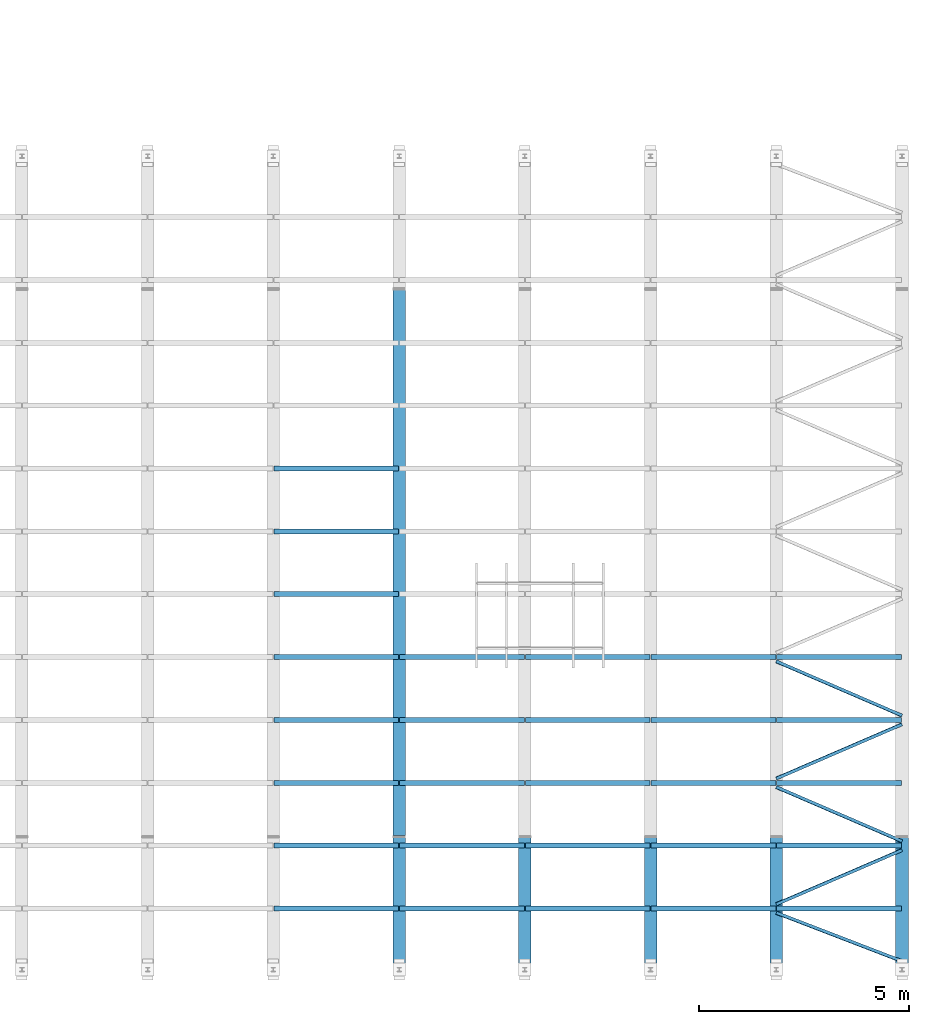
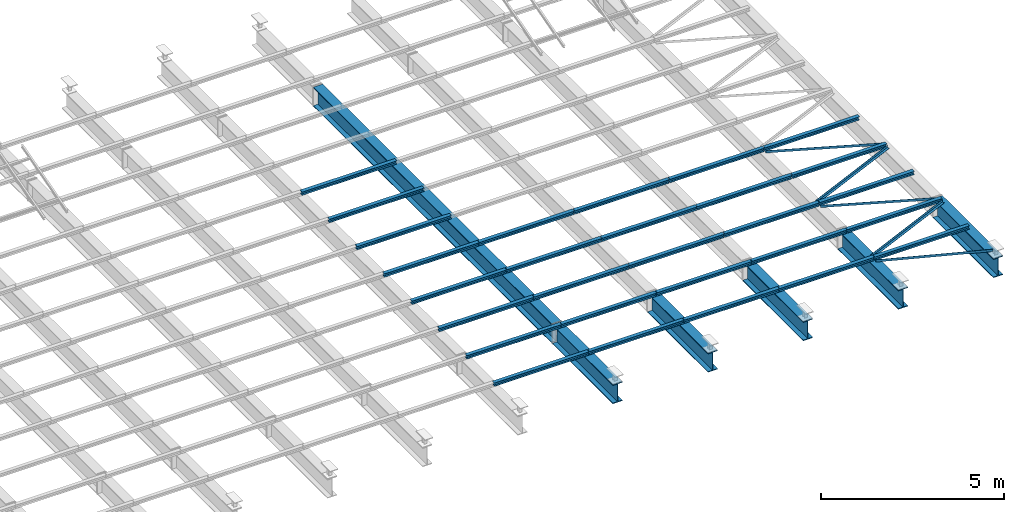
# One storey, part 68 of 139: 39 beams.
"""IFC2X3 building model written with IfcOpenShell, lengths in metres."""

from ifc_helpers import new_model, entity, si_unit, converted_unit, derived_unit, frame, origin, place, context, subcontext, project, spatial, polyline, outline, extrude, material, element, save


model = new_model("IFC2X3")

# Units and contexts
model_context = context("Model", 3, precision=1e-05, world=origin())
body_context = subcontext(model_context, "Body", "Model", "MODEL_VIEW")
ifc_project = project(units=[si_unit("LENGTHUNIT", "METRE"), si_unit("AREAUNIT", "SQUARE_METRE"), si_unit("VOLUMEUNIT", "CUBIC_METRE"), si_unit("MASSUNIT", "GRAM", prefix="KILO"), converted_unit("PLANEANGLEUNIT", "DEGREE", entity("IfcPlaneAngleMeasure", 0.0174532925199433), si_unit("PLANEANGLEUNIT", "RADIAN"), dimensions=[0, 0, 0, 0, 0, 0, 0]), derived_unit("THERMALTRANSMITTANCEUNIT", [(si_unit("POWERUNIT", "WATT"), 1), (si_unit("THERMODYNAMICTEMPERATUREUNIT", "KELVIN"), -1), (si_unit("LENGTHUNIT", "METRE"), -2)]), derived_unit("VOLUMETRICFLOWRATEUNIT", [(si_unit("LENGTHUNIT", "METRE"), 3), (converted_unit("TIMEUNIT", "hour", entity("IfcTimeMeasure", 3600.0), si_unit("TIMEUNIT", "SECOND"), dimensions=[0, 0, 1, 0, 0, 0, 0]), -1), (si_unit("LENGTHUNIT", "METRE"), -1)])], contexts=[model_context])

# Site, building, storey
site_placement = place(None, origin())
site = spatial("IfcSite", under=ifc_project, at=site_placement, Name="TWP_Speiseverteilzentrum SBW VZ II", CompositionType="ELEMENT")
building_placement = place(site_placement, origin())
building = spatial("IfcBuilding", under=site, at=building_placement, Name="Speiseverteilzentrum SBW VZ II", CompositionType="ELEMENT")
storey_placement = place(building_placement, frame((0.0, 0.0, 7.1307)))
storey = spatial("IfcBuildingStorey", under=building, at=storey_placement, Name="Wartung_FFB", CompositionType="ELEMENT", Elevation=7.1307)

# Beams
ifc_material_1 = material(Name="S235")
beam_1_placement = place(storey_placement, frame((109.050000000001, 26.9020742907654, -0.51), z_axis=(0.0, 0.0, 1.0), x_axis=(-1.0, 0.0, 0.0)))
element("IfcBeam", 1, at=beam_1_placement, inside=storey, material=ifc_material_1, Name="Stahlträger", context=body_context, shape_type="SweptSolid", body=[
    extrude(outline(polyline([(-0.15, 0.32), (-0.15, 0.294), (-0.00675000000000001, 0.294), (-0.00675000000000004, -0.294), (-0.15, -0.294), (-0.15, -0.32), (0.15, -0.32), (0.15, -0.294), (0.00674999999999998, -0.294), (0.00675000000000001, 0.294), (0.15, 0.294), (0.15, 0.32), (-0.15, 0.32)])), frame((0.0, 0.0, 0.0), z_axis=(0.0, 1.0, 0.0), x_axis=(-1.0, 0.0, 0.0)), (0.0, 0.0, 1.0), 13.014),
])
ifc_material_2 = material(Name="S235")
beam_2_placement = place(storey_placement, frame((109.050000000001, 13.8380742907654, -0.51), z_axis=(0.0, 0.0, 1.0), x_axis=(-1.0, 0.0, 0.0)))
element("IfcBeam", 2, at=beam_2_placement, inside=storey, material=ifc_material_2, Name="Stahlträger", context=body_context, shape_type="SweptSolid", body=[
    extrude(outline(polyline([(-0.15, 0.32), (-0.15, 0.294), (-0.00675000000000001, 0.294), (-0.00675000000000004, -0.294), (-0.15, -0.294), (-0.15, -0.32), (0.15, -0.32), (0.15, -0.294), (0.00674999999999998, -0.294), (0.00675000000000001, 0.294), (0.15, 0.294), (0.15, 0.32), (-0.15, 0.32)])), frame((0.0, 0.0, 0.0), z_axis=(0.0, 1.0, 0.0), x_axis=(-1.0, 0.0, 0.0)), (0.0, 0.0, 1.0), 3.29792570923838),
])
ifc_material_3 = material(Name="S235")
beam_3_placement = place(storey_placement, frame((112.050000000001, 13.8380742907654, -0.51), z_axis=(0.0, 0.0, 1.0), x_axis=(-1.0, 0.0, 0.0)))
element("IfcBeam", 3, at=beam_3_placement, inside=storey, material=ifc_material_3, Name="Stahlträger", context=body_context, shape_type="SweptSolid", body=[
    extrude(outline(polyline([(-0.15, 0.32), (-0.15, 0.294), (-0.00675000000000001, 0.294), (-0.00675000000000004, -0.294), (-0.15, -0.294), (-0.15, -0.32), (0.15, -0.32), (0.15, -0.294), (0.00674999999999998, -0.294), (0.00675000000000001, 0.294), (0.15, 0.294), (0.15, 0.32), (-0.15, 0.32)])), frame((0.0, 0.0, 0.0), z_axis=(0.0, 1.0, 0.0), x_axis=(-1.0, 0.0, 0.0)), (0.0, 0.0, 1.0), 3.29792570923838),
])
ifc_material_4 = material(Name="S235")
beam_4_placement = place(storey_placement, frame((115.050000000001, 13.8380742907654, -0.51), z_axis=(0.0, 0.0, 1.0), x_axis=(-1.0, 0.0, 0.0)))
element("IfcBeam", 4, at=beam_4_placement, inside=storey, material=ifc_material_4, Name="Stahlträger", context=body_context, shape_type="SweptSolid", body=[
    extrude(outline(polyline([(-0.15, 0.32), (-0.15, 0.294), (-0.00675000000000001, 0.294), (-0.00675000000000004, -0.294), (-0.15, -0.294), (-0.15, -0.32), (0.15, -0.32), (0.15, -0.294), (0.00674999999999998, -0.294), (0.00675000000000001, 0.294), (0.15, 0.294), (0.15, 0.32), (-0.15, 0.32)])), frame((0.0, 0.0, 0.0), z_axis=(0.0, 1.0, 0.0), x_axis=(-1.0, 0.0, 0.0)), (0.0, 0.0, 1.0), 3.29792570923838),
])
ifc_material_5 = material(Name="S235")
beam_5_placement = place(storey_placement, frame((118.050000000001, 13.8380742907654, -0.51), z_axis=(0.0, 0.0, 1.0), x_axis=(-1.0, 0.0, 0.0)))
element("IfcBeam", 5, at=beam_5_placement, inside=storey, material=ifc_material_5, Name="Stahlträger", context=body_context, shape_type="SweptSolid", body=[
    extrude(outline(polyline([(-0.15, 0.32), (-0.15, 0.294), (-0.00675000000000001, 0.294), (-0.00675000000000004, -0.294), (-0.15, -0.294), (-0.15, -0.32), (0.15, -0.32), (0.15, -0.294), (0.00674999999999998, -0.294), (0.00675000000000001, 0.294), (0.15, 0.294), (0.15, 0.32), (-0.15, 0.32)])), frame((0.0, 0.0, 0.0), z_axis=(0.0, 1.0, 0.0), x_axis=(-1.0, 0.0, 0.0)), (0.0, 0.0, 1.0), 3.29792570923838),
])
ifc_material_6 = material(Name="S235")
beam_6_placement = place(storey_placement, frame((121.050000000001, 13.8380742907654, -0.51), z_axis=(0.0, 0.0, 1.0), x_axis=(-1.0, 0.0, 0.0)))
element("IfcBeam", 6, at=beam_6_placement, inside=storey, material=ifc_material_6, Name="Stahlträger", context=body_context, shape_type="SweptSolid", body=[
    extrude(outline(polyline([(-0.15, 0.32), (-0.15, 0.294), (-0.00675000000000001, 0.294), (-0.00675000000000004, -0.294), (-0.15, -0.294), (-0.15, -0.32), (0.15, -0.32), (0.15, -0.294), (0.00674999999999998, -0.294), (0.00675000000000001, 0.294), (0.15, 0.294), (0.15, 0.32), (-0.15, 0.32)])), frame((0.0, 0.0, 0.0), z_axis=(0.0, 1.0, 0.0), x_axis=(-1.0, 0.0, 0.0)), (0.0, 0.0, 1.0), 3.29792570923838),
])
ifc_material_7 = material(Name="S235")
beam_7_placement = place(storey_placement, frame((106.060000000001, 22.6450742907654, -0.133), z_axis=(0.0, 0.0, 1.0), x_axis=(0.0, -1.0, 0.0)))
element("IfcBeam", 7, at=beam_7_placement, inside=storey, material=ifc_material_7, Name="Nebenträger", context=body_context, shape_type="SweptSolid", body=[
    extrude(outline(polyline([(-0.06, 0.0570000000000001), (-0.06, 0.0490000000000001), (-0.00249999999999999, 0.0490000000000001), (-0.0025, -0.0489999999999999), (-0.06, -0.0489999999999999), (-0.06, -0.0569999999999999), (0.06, -0.0569999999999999), (0.06, -0.0489999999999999), (0.0025, -0.0489999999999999), (0.00250000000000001, 0.0490000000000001), (0.06, 0.0490000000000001), (0.06, 0.0570000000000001), (-0.06, 0.0570000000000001)])), frame((0.0, 0.0, 0.0), z_axis=(0.0, 1.0, 0.0), x_axis=(-1.0, 0.0, 0.0)), (0.0, 0.0, 1.0), 2.98),
])
ifc_material_8 = material(Name="S235")
beam_8_placement = place(storey_placement, frame((106.060000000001, 21.1450742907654, -0.133), z_axis=(0.0, 0.0, 1.0), x_axis=(0.0, -1.0, 0.0)))
element("IfcBeam", 8, at=beam_8_placement, inside=storey, material=ifc_material_8, Name="Nebenträger", context=body_context, shape_type="SweptSolid", body=[
    extrude(outline(polyline([(-0.06, 0.0570000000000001), (-0.06, 0.0490000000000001), (-0.00249999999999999, 0.0490000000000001), (-0.0025, -0.0489999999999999), (-0.06, -0.0489999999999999), (-0.06, -0.0569999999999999), (0.06, -0.0569999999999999), (0.06, -0.0489999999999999), (0.0025, -0.0489999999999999), (0.00250000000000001, 0.0490000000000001), (0.06, 0.0490000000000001), (0.06, 0.0570000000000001), (-0.06, 0.0570000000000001)])), frame((0.0, 0.0, 0.0), z_axis=(0.0, 1.0, 0.0), x_axis=(-1.0, 0.0, 0.0)), (0.0, 0.0, 1.0), 2.98),
])
ifc_material_9 = material(Name="S235")
beam_9_placement = place(storey_placement, frame((106.060000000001, 19.6450742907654, -0.133), z_axis=(0.0, 0.0, 1.0), x_axis=(0.0, -1.0, 0.0)))
element("IfcBeam", 9, at=beam_9_placement, inside=storey, material=ifc_material_9, Name="Nebenträger", context=body_context, shape_type="SweptSolid", body=[
    extrude(outline(polyline([(-0.06, 0.0570000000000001), (-0.06, 0.0490000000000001), (-0.00249999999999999, 0.0490000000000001), (-0.0025, -0.0489999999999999), (-0.06, -0.0489999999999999), (-0.06, -0.0569999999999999), (0.06, -0.0569999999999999), (0.06, -0.0489999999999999), (0.0025, -0.0489999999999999), (0.00250000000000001, 0.0490000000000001), (0.06, 0.0490000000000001), (0.06, 0.0570000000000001), (-0.06, 0.0570000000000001)])), frame((0.0, 0.0, 0.0), z_axis=(0.0, 1.0, 0.0), x_axis=(-1.0, 0.0, 0.0)), (0.0, 0.0, 1.0), 2.98),
])
ifc_material_10 = material(Name="S235")
beam_10_placement = place(storey_placement, frame((106.060000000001, 18.1450742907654, -0.133), z_axis=(0.0, 0.0, 1.0), x_axis=(0.0, -1.0, 0.0)))
element("IfcBeam", 10, at=beam_10_placement, inside=storey, material=ifc_material_10, Name="Nebenträger", context=body_context, shape_type="SweptSolid", body=[
    extrude(outline(polyline([(-0.06, 0.0570000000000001), (-0.06, 0.0490000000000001), (-0.00249999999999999, 0.0490000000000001), (-0.0025, -0.0489999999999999), (-0.06, -0.0489999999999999), (-0.06, -0.0569999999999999), (0.06, -0.0569999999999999), (0.06, -0.0489999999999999), (0.0025, -0.0489999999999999), (0.00250000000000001, 0.0490000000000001), (0.06, 0.0490000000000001), (0.06, 0.0570000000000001), (-0.06, 0.0570000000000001)])), frame((0.0, 0.0, 0.0), z_axis=(0.0, 1.0, 0.0), x_axis=(-1.0, 0.0, 0.0)), (0.0, 0.0, 1.0), 2.98),
])
ifc_material_11 = material(Name="S235")
beam_11_placement = place(storey_placement, frame((109.060000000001, 18.1450742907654, -0.133), z_axis=(0.0, 0.0, 1.0), x_axis=(0.0, -1.0, 0.0)))
element("IfcBeam", 11, at=beam_11_placement, inside=storey, material=ifc_material_11, Name="Nebenträger", context=body_context, shape_type="SweptSolid", body=[
    extrude(outline(polyline([(-0.06, 0.0570000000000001), (-0.06, 0.0490000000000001), (-0.00249999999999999, 0.0490000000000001), (-0.0025, -0.0489999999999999), (-0.06, -0.0489999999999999), (-0.06, -0.0569999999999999), (0.06, -0.0569999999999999), (0.06, -0.0489999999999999), (0.0025, -0.0489999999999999), (0.00250000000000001, 0.0490000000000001), (0.06, 0.0490000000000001), (0.06, 0.0570000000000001), (-0.06, 0.0570000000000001)])), frame((0.0, 0.0, 0.0), z_axis=(0.0, 1.0, 0.0), x_axis=(-1.0, 0.0, 0.0)), (0.0, 0.0, 1.0), 2.98),
])
ifc_material_12 = material(Name="S235")
beam_12_placement = place(storey_placement, frame((112.060000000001, 18.1450742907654, -0.133), z_axis=(0.0, 0.0, 1.0), x_axis=(0.0, -1.0, 0.0)))
element("IfcBeam", 12, at=beam_12_placement, inside=storey, material=ifc_material_12, Name="Nebenträger", context=body_context, shape_type="SweptSolid", body=[
    extrude(outline(polyline([(-0.06, 0.0570000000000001), (-0.06, 0.0490000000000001), (-0.00249999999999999, 0.0490000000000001), (-0.0025, -0.0489999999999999), (-0.06, -0.0489999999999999), (-0.06, -0.0569999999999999), (0.06, -0.0569999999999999), (0.06, -0.0489999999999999), (0.0025, -0.0489999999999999), (0.00250000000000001, 0.0490000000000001), (0.06, 0.0490000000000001), (0.06, 0.0570000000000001), (-0.06, 0.0570000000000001)])), frame((0.0, 0.0, 0.0), z_axis=(0.0, 1.0, 0.0), x_axis=(-1.0, 0.0, 0.0)), (0.0, 0.0, 1.0), 2.98),
])
ifc_material_13 = material(Name="S235")
beam_13_placement = place(storey_placement, frame((115.060000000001, 18.1450742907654, -0.133), z_axis=(0.0, 0.0, 1.0), x_axis=(0.0, -1.0, 0.0)))
element("IfcBeam", 13, at=beam_13_placement, inside=storey, material=ifc_material_13, Name="Nebenträger", context=body_context, shape_type="SweptSolid", body=[
    extrude(outline(polyline([(-0.06, 0.0570000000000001), (-0.06, 0.0490000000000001), (-0.00249999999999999, 0.0490000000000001), (-0.0025, -0.0489999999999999), (-0.06, -0.0489999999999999), (-0.06, -0.0569999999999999), (0.06, -0.0569999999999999), (0.06, -0.0489999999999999), (0.0025, -0.0489999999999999), (0.00250000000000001, 0.0490000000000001), (0.06, 0.0490000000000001), (0.06, 0.0570000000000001), (-0.06, 0.0570000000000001)])), frame((0.0, 0.0, 0.0), z_axis=(0.0, 1.0, 0.0), x_axis=(-1.0, 0.0, 0.0)), (0.0, 0.0, 1.0), 2.98),
])
ifc_material_14 = material(Name="S235")
beam_14_placement = place(storey_placement, frame((118.060000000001, 18.1450742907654, -0.133), z_axis=(0.0, 0.0, 1.0), x_axis=(0.0, -1.0, 0.0)))
element("IfcBeam", 14, at=beam_14_placement, inside=storey, material=ifc_material_14, Name="Nebenträger", context=body_context, shape_type="SweptSolid", body=[
    extrude(outline(polyline([(-0.06, 0.0570000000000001), (-0.06, 0.0490000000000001), (-0.00249999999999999, 0.0490000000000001), (-0.0025, -0.0489999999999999), (-0.06, -0.0489999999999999), (-0.06, -0.0569999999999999), (0.06, -0.0569999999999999), (0.06, -0.0489999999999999), (0.0025, -0.0489999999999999), (0.00250000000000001, 0.0490000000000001), (0.06, 0.0490000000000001), (0.06, 0.0570000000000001), (-0.06, 0.0570000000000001)])), frame((0.0, 0.0, 0.0), z_axis=(0.0, 1.0, 0.0), x_axis=(-1.0, 0.0, 0.0)), (0.0, 0.0, 1.0), 2.98),
])
ifc_material_15 = material(Name="S235")
beam_15_placement = place(storey_placement, frame((106.060000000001, 16.6450742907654, -0.133), z_axis=(0.0, 0.0, 1.0), x_axis=(0.0, -1.0, 0.0)))
element("IfcBeam", 15, at=beam_15_placement, inside=storey, material=ifc_material_15, Name="Nebenträger", context=body_context, shape_type="SweptSolid", body=[
    extrude(outline(polyline([(-0.06, 0.0570000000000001), (-0.06, 0.0490000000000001), (-0.00249999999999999, 0.0490000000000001), (-0.0025, -0.0489999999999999), (-0.06, -0.0489999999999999), (-0.06, -0.0569999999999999), (0.06, -0.0569999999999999), (0.06, -0.0489999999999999), (0.0025, -0.0489999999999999), (0.00250000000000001, 0.0490000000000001), (0.06, 0.0490000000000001), (0.06, 0.0570000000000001), (-0.06, 0.0570000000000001)])), frame((0.0, 0.0, 0.0), z_axis=(0.0, 1.0, 0.0), x_axis=(-1.0, 0.0, 0.0)), (0.0, 0.0, 1.0), 2.98),
])
ifc_material_16 = material(Name="S235")
beam_16_placement = place(storey_placement, frame((109.060000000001, 16.6450742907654, -0.133), z_axis=(0.0, 0.0, 1.0), x_axis=(0.0, -1.0, 0.0)))
element("IfcBeam", 16, at=beam_16_placement, inside=storey, material=ifc_material_16, Name="Nebenträger", context=body_context, shape_type="SweptSolid", body=[
    extrude(outline(polyline([(-0.06, 0.0570000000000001), (-0.06, 0.0490000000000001), (-0.00249999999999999, 0.0490000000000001), (-0.0025, -0.0489999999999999), (-0.06, -0.0489999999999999), (-0.06, -0.0569999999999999), (0.06, -0.0569999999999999), (0.06, -0.0489999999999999), (0.0025, -0.0489999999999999), (0.00250000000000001, 0.0490000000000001), (0.06, 0.0490000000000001), (0.06, 0.0570000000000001), (-0.06, 0.0570000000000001)])), frame((0.0, 0.0, 0.0), z_axis=(0.0, 1.0, 0.0), x_axis=(-1.0, 0.0, 0.0)), (0.0, 0.0, 1.0), 2.98),
])
ifc_material_17 = material(Name="S235")
beam_17_placement = place(storey_placement, frame((112.060000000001, 16.6450742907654, -0.133), z_axis=(0.0, 0.0, 1.0), x_axis=(0.0, -1.0, 0.0)))
element("IfcBeam", 17, at=beam_17_placement, inside=storey, material=ifc_material_17, Name="Nebenträger", context=body_context, shape_type="SweptSolid", body=[
    extrude(outline(polyline([(-0.06, 0.0570000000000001), (-0.06, 0.0490000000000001), (-0.00249999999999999, 0.0490000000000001), (-0.0025, -0.0489999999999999), (-0.06, -0.0489999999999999), (-0.06, -0.0569999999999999), (0.06, -0.0569999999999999), (0.06, -0.0489999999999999), (0.0025, -0.0489999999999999), (0.00250000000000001, 0.0490000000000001), (0.06, 0.0490000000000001), (0.06, 0.0570000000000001), (-0.06, 0.0570000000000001)])), frame((0.0, 0.0, 0.0), z_axis=(0.0, 1.0, 0.0), x_axis=(-1.0, 0.0, 0.0)), (0.0, 0.0, 1.0), 2.98),
])
ifc_material_18 = material(Name="S235")
beam_18_placement = place(storey_placement, frame((115.060000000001, 16.6450742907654, -0.133), z_axis=(0.0, 0.0, 1.0), x_axis=(0.0, -1.0, 0.0)))
element("IfcBeam", 18, at=beam_18_placement, inside=storey, material=ifc_material_18, Name="Nebenträger", context=body_context, shape_type="SweptSolid", body=[
    extrude(outline(polyline([(-0.06, 0.0570000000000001), (-0.06, 0.0490000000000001), (-0.00249999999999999, 0.0490000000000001), (-0.0025, -0.0489999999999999), (-0.06, -0.0489999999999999), (-0.06, -0.0569999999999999), (0.06, -0.0569999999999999), (0.06, -0.0489999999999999), (0.0025, -0.0489999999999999), (0.00250000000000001, 0.0490000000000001), (0.06, 0.0490000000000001), (0.06, 0.0570000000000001), (-0.06, 0.0570000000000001)])), frame((0.0, 0.0, 0.0), z_axis=(0.0, 1.0, 0.0), x_axis=(-1.0, 0.0, 0.0)), (0.0, 0.0, 1.0), 2.98),
])
ifc_material_19 = material(Name="S235")
beam_19_placement = place(storey_placement, frame((118.060000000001, 16.6450742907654, -0.133), z_axis=(0.0, 0.0, 1.0), x_axis=(0.0, -1.0, 0.0)))
element("IfcBeam", 19, at=beam_19_placement, inside=storey, material=ifc_material_19, Name="Nebenträger", context=body_context, shape_type="SweptSolid", body=[
    extrude(outline(polyline([(-0.06, 0.0570000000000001), (-0.06, 0.0490000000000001), (-0.00249999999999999, 0.0490000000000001), (-0.0025, -0.0489999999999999), (-0.06, -0.0489999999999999), (-0.06, -0.0569999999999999), (0.06, -0.0569999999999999), (0.06, -0.0489999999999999), (0.0025, -0.0489999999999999), (0.00250000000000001, 0.0490000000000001), (0.06, 0.0490000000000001), (0.06, 0.0570000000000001), (-0.06, 0.0570000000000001)])), frame((0.0, 0.0, 0.0), z_axis=(0.0, 1.0, 0.0), x_axis=(-1.0, 0.0, 0.0)), (0.0, 0.0, 1.0), 2.98),
])
ifc_material_20 = material(Name="S235")
beam_20_placement = place(storey_placement, frame((106.060000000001, 15.1450742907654, -0.133), z_axis=(0.0, 0.0, 1.0), x_axis=(0.0, -1.0, 0.0)))
element("IfcBeam", 20, at=beam_20_placement, inside=storey, material=ifc_material_20, Name="Nebenträger", context=body_context, shape_type="SweptSolid", body=[
    extrude(outline(polyline([(-0.06, 0.0570000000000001), (-0.06, 0.0490000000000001), (-0.00249999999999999, 0.0490000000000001), (-0.0025, -0.0489999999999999), (-0.06, -0.0489999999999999), (-0.06, -0.0569999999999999), (0.06, -0.0569999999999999), (0.06, -0.0489999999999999), (0.0025, -0.0489999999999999), (0.00250000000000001, 0.0490000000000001), (0.06, 0.0490000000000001), (0.06, 0.0570000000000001), (-0.06, 0.0570000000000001)])), frame((0.0, 0.0, 0.0), z_axis=(0.0, 1.0, 0.0), x_axis=(-1.0, 0.0, 0.0)), (0.0, 0.0, 1.0), 2.98),
])
ifc_material_21 = material(Name="S235")
beam_21_placement = place(storey_placement, frame((109.060000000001, 15.1450742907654, -0.133), z_axis=(0.0, 0.0, 1.0), x_axis=(0.0, -1.0, 0.0)))
element("IfcBeam", 21, at=beam_21_placement, inside=storey, material=ifc_material_21, Name="Nebenträger", context=body_context, shape_type="SweptSolid", body=[
    extrude(outline(polyline([(-0.06, 0.0570000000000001), (-0.06, 0.0490000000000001), (-0.00249999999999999, 0.0490000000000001), (-0.0025, -0.0489999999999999), (-0.06, -0.0489999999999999), (-0.06, -0.0569999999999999), (0.06, -0.0569999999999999), (0.06, -0.0489999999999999), (0.0025, -0.0489999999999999), (0.00250000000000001, 0.0490000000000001), (0.06, 0.0490000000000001), (0.06, 0.0570000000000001), (-0.06, 0.0570000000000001)])), frame((0.0, 0.0, 0.0), z_axis=(0.0, 1.0, 0.0), x_axis=(-1.0, 0.0, 0.0)), (0.0, 0.0, 1.0), 2.98),
])
ifc_material_22 = material(Name="S235")
beam_22_placement = place(storey_placement, frame((112.060000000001, 15.1450742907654, -0.133), z_axis=(0.0, 0.0, 1.0), x_axis=(0.0, -1.0, 0.0)))
element("IfcBeam", 22, at=beam_22_placement, inside=storey, material=ifc_material_22, Name="Nebenträger", context=body_context, shape_type="SweptSolid", body=[
    extrude(outline(polyline([(-0.06, 0.0570000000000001), (-0.06, 0.0490000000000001), (-0.00249999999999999, 0.0490000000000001), (-0.0025, -0.0489999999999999), (-0.06, -0.0489999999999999), (-0.06, -0.0569999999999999), (0.06, -0.0569999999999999), (0.06, -0.0489999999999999), (0.0025, -0.0489999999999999), (0.00250000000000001, 0.0490000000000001), (0.06, 0.0490000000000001), (0.06, 0.0570000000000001), (-0.06, 0.0570000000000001)])), frame((0.0, 0.0, 0.0), z_axis=(0.0, 1.0, 0.0), x_axis=(-1.0, 0.0, 0.0)), (0.0, 0.0, 1.0), 2.98),
])
ifc_material_23 = material(Name="S235")
beam_23_placement = place(storey_placement, frame((115.060000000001, 15.1450742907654, -0.133), z_axis=(0.0, 0.0, 1.0), x_axis=(0.0, -1.0, 0.0)))
element("IfcBeam", 23, at=beam_23_placement, inside=storey, material=ifc_material_23, Name="Nebenträger", context=body_context, shape_type="SweptSolid", body=[
    extrude(outline(polyline([(-0.06, 0.0570000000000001), (-0.06, 0.0490000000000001), (-0.00249999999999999, 0.0490000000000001), (-0.0025, -0.0489999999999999), (-0.06, -0.0489999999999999), (-0.06, -0.0569999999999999), (0.06, -0.0569999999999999), (0.06, -0.0489999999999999), (0.0025, -0.0489999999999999), (0.00250000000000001, 0.0490000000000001), (0.06, 0.0490000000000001), (0.06, 0.0570000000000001), (-0.06, 0.0570000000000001)])), frame((0.0, 0.0, 0.0), z_axis=(0.0, 1.0, 0.0), x_axis=(-1.0, 0.0, 0.0)), (0.0, 0.0, 1.0), 2.98),
])
ifc_material_24 = material(Name="S235")
beam_24_placement = place(storey_placement, frame((118.060000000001, 15.1450742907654, -0.133), z_axis=(0.0, 0.0, 1.0), x_axis=(0.0, -1.0, 0.0)))
element("IfcBeam", 24, at=beam_24_placement, inside=storey, material=ifc_material_24, Name="Nebenträger", context=body_context, shape_type="SweptSolid", body=[
    extrude(outline(polyline([(-0.06, 0.0570000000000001), (-0.06, 0.0490000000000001), (-0.00249999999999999, 0.0490000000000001), (-0.0025, -0.0489999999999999), (-0.06, -0.0489999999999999), (-0.06, -0.0569999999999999), (0.06, -0.0569999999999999), (0.06, -0.0489999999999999), (0.0025, -0.0489999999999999), (0.00250000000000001, 0.0490000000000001), (0.06, 0.0490000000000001), (0.06, 0.0570000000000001), (-0.06, 0.0570000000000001)])), frame((0.0, 0.0, 0.0), z_axis=(0.0, 1.0, 0.0), x_axis=(-1.0, 0.0, 0.0)), (0.0, 0.0, 1.0), 2.98),
])
ifc_material_25 = material(Name="S235")
beam_25_placement = place(storey_placement, frame((106.060000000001, 13.6450742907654, -0.133), z_axis=(0.0, 0.0, 1.0), x_axis=(0.0, -1.0, 0.0)))
element("IfcBeam", 25, at=beam_25_placement, inside=storey, material=ifc_material_25, Name="Nebenträger", context=body_context, shape_type="SweptSolid", body=[
    extrude(outline(polyline([(-0.06, 0.0570000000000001), (-0.06, 0.0490000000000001), (-0.00249999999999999, 0.0490000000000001), (-0.0025, -0.0489999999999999), (-0.06, -0.0489999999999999), (-0.06, -0.0569999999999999), (0.06, -0.0569999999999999), (0.06, -0.0489999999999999), (0.0025, -0.0489999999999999), (0.00250000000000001, 0.0490000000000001), (0.06, 0.0490000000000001), (0.06, 0.0570000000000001), (-0.06, 0.0570000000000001)])), frame((0.0, 0.0, 0.0), z_axis=(0.0, 1.0, 0.0), x_axis=(-1.0, 0.0, 0.0)), (0.0, 0.0, 1.0), 2.98),
])
ifc_material_26 = material(Name="S235")
beam_26_placement = place(storey_placement, frame((109.060000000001, 13.6450742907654, -0.133), z_axis=(0.0, 0.0, 1.0), x_axis=(0.0, -1.0, 0.0)))
element("IfcBeam", 26, at=beam_26_placement, inside=storey, material=ifc_material_26, Name="Nebenträger", context=body_context, shape_type="SweptSolid", body=[
    extrude(outline(polyline([(-0.06, 0.0570000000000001), (-0.06, 0.0490000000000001), (-0.00249999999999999, 0.0490000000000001), (-0.0025, -0.0489999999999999), (-0.06, -0.0489999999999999), (-0.06, -0.0569999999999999), (0.06, -0.0569999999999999), (0.06, -0.0489999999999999), (0.0025, -0.0489999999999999), (0.00250000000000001, 0.0490000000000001), (0.06, 0.0490000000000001), (0.06, 0.0570000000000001), (-0.06, 0.0570000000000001)])), frame((0.0, 0.0, 0.0), z_axis=(0.0, 1.0, 0.0), x_axis=(-1.0, 0.0, 0.0)), (0.0, 0.0, 1.0), 2.98),
])
ifc_material_27 = material(Name="S235")
beam_27_placement = place(storey_placement, frame((112.060000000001, 13.6450742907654, -0.133), z_axis=(0.0, 0.0, 1.0), x_axis=(0.0, -1.0, 0.0)))
element("IfcBeam", 27, at=beam_27_placement, inside=storey, material=ifc_material_27, Name="Nebenträger", context=body_context, shape_type="SweptSolid", body=[
    extrude(outline(polyline([(-0.06, 0.0570000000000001), (-0.06, 0.0490000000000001), (-0.00249999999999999, 0.0490000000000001), (-0.0025, -0.0489999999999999), (-0.06, -0.0489999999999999), (-0.06, -0.0569999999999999), (0.06, -0.0569999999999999), (0.06, -0.0489999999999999), (0.0025, -0.0489999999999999), (0.00250000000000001, 0.0490000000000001), (0.06, 0.0490000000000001), (0.06, 0.0570000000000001), (-0.06, 0.0570000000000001)])), frame((0.0, 0.0, 0.0), z_axis=(0.0, 1.0, 0.0), x_axis=(-1.0, 0.0, 0.0)), (0.0, 0.0, 1.0), 2.98),
])
ifc_material_28 = material(Name="S235")
beam_28_placement = place(storey_placement, frame((115.060000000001, 13.6450742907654, -0.133), z_axis=(0.0, 0.0, 1.0), x_axis=(0.0, -1.0, 0.0)))
element("IfcBeam", 28, at=beam_28_placement, inside=storey, material=ifc_material_28, Name="Nebenträger", context=body_context, shape_type="SweptSolid", body=[
    extrude(outline(polyline([(-0.06, 0.0570000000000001), (-0.06, 0.0490000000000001), (-0.00249999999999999, 0.0490000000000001), (-0.0025, -0.0489999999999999), (-0.06, -0.0489999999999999), (-0.06, -0.0569999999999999), (0.06, -0.0569999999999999), (0.06, -0.0489999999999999), (0.0025, -0.0489999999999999), (0.00250000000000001, 0.0490000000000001), (0.06, 0.0490000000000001), (0.06, 0.0570000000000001), (-0.06, 0.0570000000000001)])), frame((0.0, 0.0, 0.0), z_axis=(0.0, 1.0, 0.0), x_axis=(-1.0, 0.0, 0.0)), (0.0, 0.0, 1.0), 2.98),
])
ifc_material_29 = material(Name="S235")
beam_29_placement = place(storey_placement, frame((118.060000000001, 13.6450742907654, -0.133), z_axis=(0.0, 0.0, 1.0), x_axis=(0.0, -1.0, 0.0)))
element("IfcBeam", 29, at=beam_29_placement, inside=storey, material=ifc_material_29, Name="Nebenträger", context=body_context, shape_type="SweptSolid", body=[
    extrude(outline(polyline([(-0.06, 0.0570000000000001), (-0.06, 0.0490000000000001), (-0.00249999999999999, 0.0490000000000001), (-0.0025, -0.0489999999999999), (-0.06, -0.0489999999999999), (-0.06, -0.0569999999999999), (0.06, -0.0569999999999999), (0.06, -0.0489999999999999), (0.0025, -0.0489999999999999), (0.00250000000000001, 0.0490000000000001), (0.06, 0.0490000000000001), (0.06, 0.0570000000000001), (-0.06, 0.0570000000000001)])), frame((0.0, 0.0, 0.0), z_axis=(0.0, 1.0, 0.0), x_axis=(-1.0, 0.0, 0.0)), (0.0, 0.0, 1.0), 2.98),
])
ifc_material_30 = material(Name="S235")
beam_30_placement = place(storey_placement, frame((106.060000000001, 12.1450742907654, -0.133), z_axis=(0.0, 0.0, 1.0), x_axis=(0.0, -1.0, 0.0)))
element("IfcBeam", 30, at=beam_30_placement, inside=storey, material=ifc_material_30, Name="Nebenträger", context=body_context, shape_type="SweptSolid", body=[
    extrude(outline(polyline([(-0.06, 0.0570000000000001), (-0.06, 0.0490000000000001), (-0.00249999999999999, 0.0490000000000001), (-0.0025, -0.0489999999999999), (-0.06, -0.0489999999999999), (-0.06, -0.0569999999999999), (0.06, -0.0569999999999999), (0.06, -0.0489999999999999), (0.0025, -0.0489999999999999), (0.00250000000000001, 0.0490000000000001), (0.06, 0.0490000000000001), (0.06, 0.0570000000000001), (-0.06, 0.0570000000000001)])), frame((0.0, 0.0, 0.0), z_axis=(0.0, 1.0, 0.0), x_axis=(-1.0, 0.0, 0.0)), (0.0, 0.0, 1.0), 2.98),
])
ifc_material_31 = material(Name="S235")
beam_31_placement = place(storey_placement, frame((109.060000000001, 12.1450742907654, -0.133), z_axis=(0.0, 0.0, 1.0), x_axis=(0.0, -1.0, 0.0)))
element("IfcBeam", 31, at=beam_31_placement, inside=storey, material=ifc_material_31, Name="Nebenträger", context=body_context, shape_type="SweptSolid", body=[
    extrude(outline(polyline([(-0.06, 0.0570000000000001), (-0.06, 0.0490000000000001), (-0.00249999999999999, 0.0490000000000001), (-0.0025, -0.0489999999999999), (-0.06, -0.0489999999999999), (-0.06, -0.0569999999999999), (0.06, -0.0569999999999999), (0.06, -0.0489999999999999), (0.0025, -0.0489999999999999), (0.00250000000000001, 0.0490000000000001), (0.06, 0.0490000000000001), (0.06, 0.0570000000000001), (-0.06, 0.0570000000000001)])), frame((0.0, 0.0, 0.0), z_axis=(0.0, 1.0, 0.0), x_axis=(-1.0, 0.0, 0.0)), (0.0, 0.0, 1.0), 2.98),
])
ifc_material_32 = material(Name="S235")
beam_32_placement = place(storey_placement, frame((112.060000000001, 12.1450742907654, -0.133), z_axis=(0.0, 0.0, 1.0), x_axis=(0.0, -1.0, 0.0)))
element("IfcBeam", 32, at=beam_32_placement, inside=storey, material=ifc_material_32, Name="Nebenträger", context=body_context, shape_type="SweptSolid", body=[
    extrude(outline(polyline([(-0.06, 0.0570000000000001), (-0.06, 0.0490000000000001), (-0.00249999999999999, 0.0490000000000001), (-0.0025, -0.0489999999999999), (-0.06, -0.0489999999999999), (-0.06, -0.0569999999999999), (0.06, -0.0569999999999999), (0.06, -0.0489999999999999), (0.0025, -0.0489999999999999), (0.00250000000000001, 0.0490000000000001), (0.06, 0.0490000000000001), (0.06, 0.0570000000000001), (-0.06, 0.0570000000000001)])), frame((0.0, 0.0, 0.0), z_axis=(0.0, 1.0, 0.0), x_axis=(-1.0, 0.0, 0.0)), (0.0, 0.0, 1.0), 2.98),
])
ifc_material_33 = material(Name="S235")
beam_33_placement = place(storey_placement, frame((115.060000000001, 12.1450742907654, -0.133), z_axis=(0.0, 0.0, 1.0), x_axis=(0.0, -1.0, 0.0)))
element("IfcBeam", 33, at=beam_33_placement, inside=storey, material=ifc_material_33, Name="Nebenträger", context=body_context, shape_type="SweptSolid", body=[
    extrude(outline(polyline([(-0.06, 0.0570000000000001), (-0.06, 0.0490000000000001), (-0.00249999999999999, 0.0490000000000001), (-0.0025, -0.0489999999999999), (-0.06, -0.0489999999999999), (-0.06, -0.0569999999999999), (0.06, -0.0569999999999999), (0.06, -0.0489999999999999), (0.0025, -0.0489999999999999), (0.00250000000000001, 0.0490000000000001), (0.06, 0.0490000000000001), (0.06, 0.0570000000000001), (-0.06, 0.0570000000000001)])), frame((0.0, 0.0, 0.0), z_axis=(0.0, 1.0, 0.0), x_axis=(-1.0, 0.0, 0.0)), (0.0, 0.0, 1.0), 2.98),
])
ifc_material_34 = material(Name="S235")
beam_34_placement = place(storey_placement, frame((118.060000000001, 12.1450742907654, -0.133), z_axis=(0.0, 0.0, 1.0), x_axis=(0.0, -1.0, 0.0)))
element("IfcBeam", 34, at=beam_34_placement, inside=storey, material=ifc_material_34, Name="Nebenträger", context=body_context, shape_type="SweptSolid", body=[
    extrude(outline(polyline([(-0.06, 0.0570000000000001), (-0.06, 0.0490000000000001), (-0.00249999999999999, 0.0490000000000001), (-0.0025, -0.0489999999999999), (-0.06, -0.0489999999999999), (-0.06, -0.0569999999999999), (0.06, -0.0569999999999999), (0.06, -0.0489999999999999), (0.0025, -0.0489999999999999), (0.00250000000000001, 0.0490000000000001), (0.06, 0.0490000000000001), (0.06, 0.0570000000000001), (-0.06, 0.0570000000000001)])), frame((0.0, 0.0, 0.0), z_axis=(0.0, 1.0, 0.0), x_axis=(-1.0, 0.0, 0.0)), (0.0, 0.0, 1.0), 2.98),
])
ifc_material_35 = material(Name="S235")
beam_35_placement = place(storey_placement, frame((118.040691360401, 15.2634673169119, -0.167052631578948), z_axis=(0.0, 0.0, 1.0), x_axis=(0.395932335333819, -0.91827968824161, 0.0)))
element("IfcBeam", 35, at=beam_35_placement, inside=storey, material=ifc_material_35, Name="Kreuzverband", context=body_context, shape_type="SweptSolid", body=[
    extrude(outline(polyline([(0.0229473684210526, -0.0229473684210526), (0.0229473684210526, 0.0570526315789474), (0.0149473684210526, 0.0570526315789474), (0.0149473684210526, -0.0149473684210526), (-0.0570526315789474, -0.0149473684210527), (-0.0570526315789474, -0.0229473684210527), (0.0229473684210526, -0.0229473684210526)])), frame((0.0, 0.0, 0.0), z_axis=(0.0, 0.999999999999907, 0.0), x_axis=(-1.0, 0.0, 0.0)), (0.0, 0.0, 1.0), 3.27000000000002),
])
ifc_material_36 = material(Name="S235")
beam_36_placement = place(storey_placement, frame((118.040691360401, 18.0266812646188, -0.167052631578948), z_axis=(0.0, 0.0, 1.0), x_axis=(-0.395932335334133, -0.918279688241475, 0.0)))
element("IfcBeam", 36, at=beam_36_placement, inside=storey, material=ifc_material_36, Name="Kreuzverband", context=body_context, shape_type="SweptSolid", body=[
    extrude(outline(polyline([(0.0570526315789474, -0.0229473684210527), (0.0570526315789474, -0.0149473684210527), (-0.0149473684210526, -0.0149473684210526), (-0.0149473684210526, 0.0570526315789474), (-0.0229473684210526, 0.0570526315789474), (-0.0229473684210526, -0.0229473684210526), (0.0570526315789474, -0.0229473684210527)])), frame((0.0, 0.0, 0.0), z_axis=(0.0, 1.00000000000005, 0.0), x_axis=(-1.0, 0.0, 0.0)), (0.0, 0.0, 1.0), 3.27000000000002),
])
ifc_material_37 = material(Name="S235")
beam_37_placement = place(storey_placement, frame((118.040691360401, 15.0266812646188, -0.167052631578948), z_axis=(0.0, 0.0, 1.0), x_axis=(-0.395932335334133, -0.918279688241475, 0.0)))
element("IfcBeam", 37, at=beam_37_placement, inside=storey, material=ifc_material_37, Name="Kreuzverband", context=body_context, shape_type="SweptSolid", body=[
    extrude(outline(polyline([(0.0570526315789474, -0.0229473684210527), (0.0570526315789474, -0.0149473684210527), (-0.0149473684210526, -0.0149473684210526), (-0.0149473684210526, 0.0570526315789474), (-0.0229473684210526, 0.0570526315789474), (-0.0229473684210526, -0.0229473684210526), (0.0570526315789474, -0.0229473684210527)])), frame((0.0, 0.0, 0.0), z_axis=(0.0, 1.00000000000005, 0.0), x_axis=(-1.0, 0.0, 0.0)), (0.0, 0.0, 1.0), 3.27000000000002),
])
ifc_material_38 = material(Name="S235")
beam_38_placement = place(storey_placement, frame((118.040691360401, 12.2634673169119, -0.167052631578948), z_axis=(0.0, 0.0, 1.0), x_axis=(0.395932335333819, -0.91827968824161, 0.0)))
element("IfcBeam", 38, at=beam_38_placement, inside=storey, material=ifc_material_38, Name="Kreuzverband", context=body_context, shape_type="SweptSolid", body=[
    extrude(outline(polyline([(0.0229473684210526, -0.0229473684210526), (0.0229473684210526, 0.0570526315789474), (0.0149473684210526, 0.0570526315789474), (0.0149473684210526, -0.0149473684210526), (-0.0570526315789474, -0.0149473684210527), (-0.0570526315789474, -0.0229473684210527), (0.0229473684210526, -0.0229473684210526)])), frame((0.0, 0.0, 0.0), z_axis=(0.0, 0.999999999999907, 0.0), x_axis=(-1.0, 0.0, 0.0)), (0.0, 0.0, 1.0), 3.27000000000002),
])
ifc_material_39 = material(Name="S235")
beam_39_placement = place(storey_placement, frame((118.042792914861, 12.0258243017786, -0.167052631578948), z_axis=(0.0, 0.0, 1.0), x_axis=(-0.35909697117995, -0.933300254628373, 0.0)))
element("IfcBeam", 39, at=beam_39_placement, inside=storey, material=ifc_material_39, Name="Kreuzverband", context=body_context, shape_type="SweptSolid", body=[
    extrude(outline(polyline([(0.0570526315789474, -0.0229473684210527), (0.0570526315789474, -0.0149473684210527), (-0.0149473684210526, -0.0149473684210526), (-0.0149473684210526, 0.0570526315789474), (-0.0229473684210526, 0.0570526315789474), (-0.0229473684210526, -0.0229473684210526), (0.0570526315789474, -0.0229473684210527)])), frame((0.0, 0.0, 0.0), z_axis=(0.0, 1.00000000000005, 0.0), x_axis=(-1.0, 0.0, 0.0)), (0.0, 0.0, 1.0), 3.23818342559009),
])

save(model, "model.ifc")
